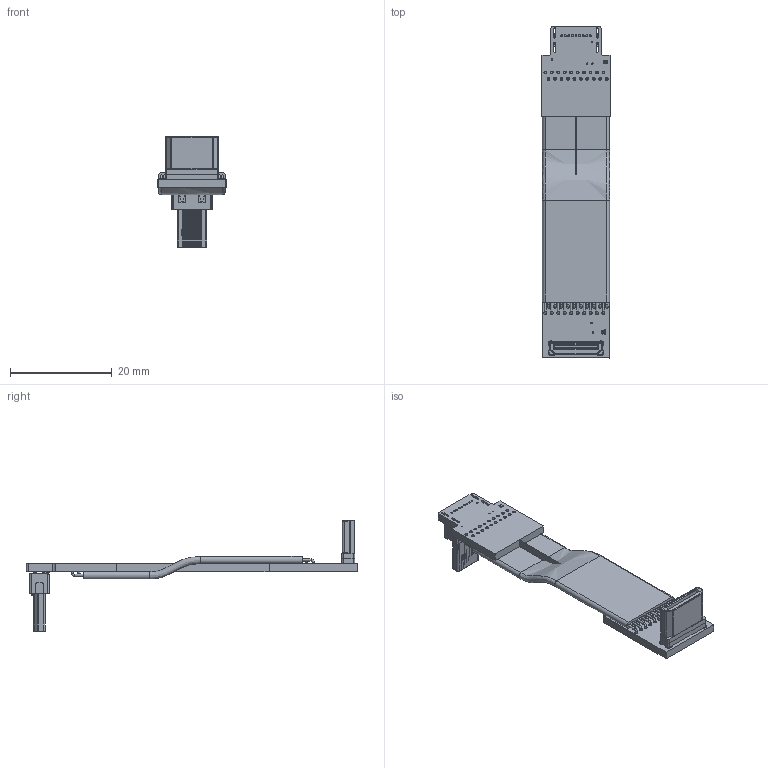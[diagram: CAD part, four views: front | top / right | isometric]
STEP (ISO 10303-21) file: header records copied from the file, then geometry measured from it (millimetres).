
FILE_DESCRIPTION(('Open CASCADE Model'),'2;1');
FILE_NAME('Open CASCADE Shape Model','2022-06-09T22:46:35',('Author'),( 'Open CASCADE'),'Open CASCADE STEP processor 6.8','Open CASCADE 6.8' ,'Unknown');
FILE_SCHEMA(('AUTOMOTIVE_DESIGN { 1 0 10303 214 1 1 1 1 }'));
Length unit declared in the file: millimetre
Products named in the file (70): PCB; Board; Open CASCADE STEP translator 6.8 6.1.1; _1; HDMI_MICRO_D(M)(1); Open CASCADE STEP translator 6.8 6.3; miniHDMI-p_RGB10275833; HDMI_type_C1; Free-Models; cable20-A1A3
Assembly tree (70 placements, depth 3):
  PCB
    Board
      Open CASCADE STEP translator 6.8 6.1.1
    _1
      HDMI_MICRO_D(M)(1)
      HDMI_MICRO_D(M)(1)
      HDMI_MICRO_D(M)(1)
      HDMI_MICRO_D(M)(1)
      HDMI_MICRO_D(M)(1)
      HDMI_MICRO_D(M)(1)
      HDMI_MICRO_D(M)(1)
      HDMI_MICRO_D(M)(1)
      HDMI_MICRO_D(M)(1)
      HDMI_MICRO_D(M)(1)
      HDMI_MICRO_D(M)(1)
      HDMI_MICRO_D(M)(1)
      HDMI_MICRO_D(M)(1)
      HDMI_MICRO_D(M)(1)
      HDMI_MICRO_D(M)(1)
      HDMI_MICRO_D(M)(1)
      HDMI_MICRO_D(M)(1)
      HDMI_MICRO_D(M)(1)
      HDMI_MICRO_D(M)(1)
      HDMI_MICRO_D(M)(1)
      HDMI_MICRO_D(M)(1)
      HDMI_MICRO_D(M)(1)
    Open CASCADE STEP translator 6.8 6.3
      miniHDMI-p_RGB10275833  x2
      HDMI_type_C1
    Free-Models
      cable20-A1A3
      cable20-A1A3
      cable20-A1A3
      cable20-A1A3
      cable20-A1A3
      cable20-A1A3
      cable20-A1A3
      cable20-A1A3
      cable20-A1A3
      cable20-A1A3
      cable20-A1A3
      cable20-A1A3
      cable20-A1A3
      cable20-A1A3
      cable20-A1A3
      cable20-A1A3
      cable20-A1A3
      cable20-A1A3
      cable20-A1A3
      cable20-A1A3
      cable20-A1A3
      cable20-A1A3
      cable20-A1A3
      cable20-A1A3
      cable20-A1A3
      cable20-A1A3
      cable20-A1A3
      cable20-A1A3
      cable20-A1A3
      cable20-A1A3
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Bounding box: 13.4 x 65.31 x 21.7 mm (x, y, z)
Volume: 1719.1 mm3; surface area: 5238.9 mm2
Topology: 66 solids, 66 shells, 1001 faces, 2481 edges, 1612 vertices
Faces by surface type: plane 606, cylinder 299, torus 46, bspline 46, extrusion 4
Full cylindrical faces by diameter (mm): 0.254 x8, 0.304 x6, 0.38 x9, 0.4 x105, 0.404 x2, 0.405 x2, 0.55 x20, 0.6 x20, 1.1 x2, 1.4 x2
Entity records: 41015 total; most frequent: CARTESIAN_POINT 7927, ORIENTED_EDGE 4914, DIRECTION 4891, EDGE_CURVE 2457, AXIS2_PLACEMENT_3D 1636, VECTOR 1619, LINE 1615, VERTEX_POINT 1596
